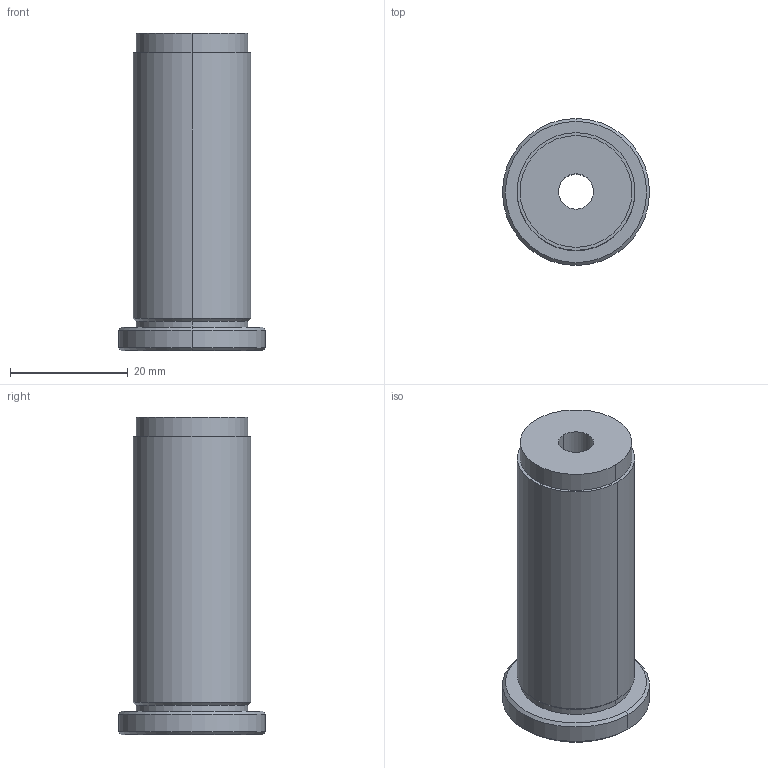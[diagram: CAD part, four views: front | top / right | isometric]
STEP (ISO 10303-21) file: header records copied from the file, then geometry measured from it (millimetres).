
FILE_DESCRIPTION(('no description'),'unknown implementation level');
FILE_NAME('solidutF1SFA2bmoQfyLjdhZ4goY_6X8_1.STP',' ',('CIMSOURCE GmbH'),('CADClick - KiM GmbH - www.kimweb.de'),'unknown preprocess','ACIS','unknown authorization');
FILE_SCHEMA(('automotive_design'));
Length unit declared in the file: millimetre
Products named in the file (1): NOCUT
Bounding box: 25 x 25 x 54 mm (x, y, z)
Volume: 15983.8 mm3; surface area: 5384.6 mm2
Topology: 1 solids, 1 shells, 32 faces, 73 edges, 46 vertices
Faces by surface type: cylinder 17, plane 9, cone 6
Entity records: 1889 total; most frequent: CARTESIAN_POINT 257, DIRECTION 172, STYLED_ITEM 152, PRESENTATION_STYLE_ASSIGNMENT 152, COLOUR_RGB 152, ORIENTED_EDGE 146, EDGE_CURVE 73, CURVE_STYLE 73
